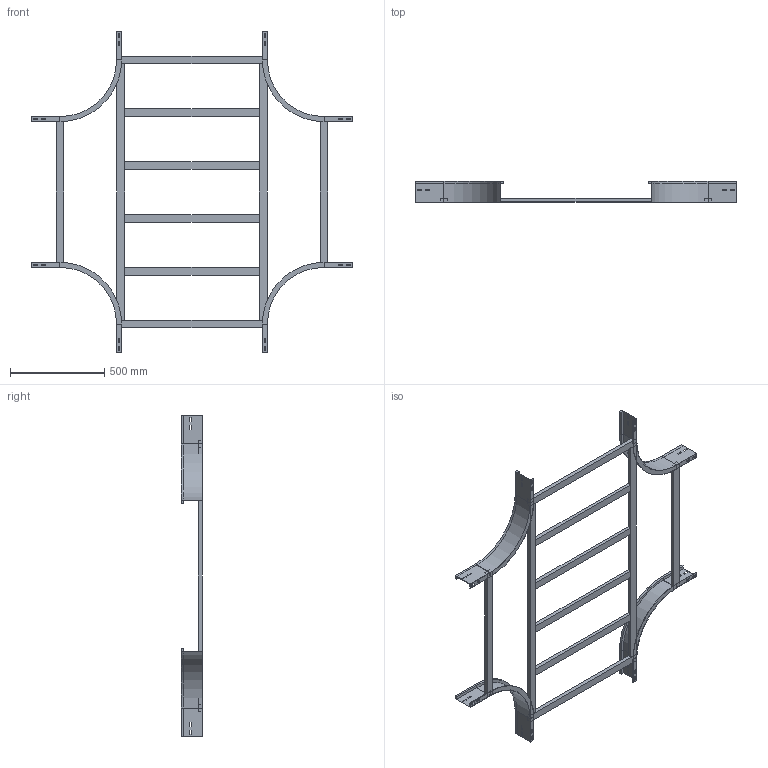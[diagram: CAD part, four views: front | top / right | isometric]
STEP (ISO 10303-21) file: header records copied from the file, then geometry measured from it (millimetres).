
FILE_DESCRIPTION (( 'STEP AP214' ), '1' );
FILE_NAME ('A2_17B3J800.step', '2025-02-21T15:56:58', ( '' ), ( '' ), 'SwSTEP 2.0', 'SolidWorks 2023', '' );
FILE_SCHEMA (( 'AUTOMOTIVE_DESIGN' ));
Length unit declared in the file: millimetre
Products named in the file (5): A2_TRAVERSINO_LONG._R300+800; A2_LONGH.INTERNO 90°_H112.5_R300; A2_17B3J800; TRAVERSINO_800; TRAVERSINO_INTERMEDIO_R300+800
Assembly tree (14 placements, depth 2):
  A2_17B3J800
    A2_LONGH.INTERNO 90°_H112.5_R300  x4
    TRAVERSINO_800  x4
    A2_TRAVERSINO_LONG._R300+800  x2
    TRAVERSINO_INTERMEDIO_R300+800  x4
Bounding box: 1700 x 112.5 x 1700 mm (x, y, z)
Volume: 8546881 mm3; surface area: 2043061.5 mm2
Topology: 14 solids, 14 shells, 292 faces, 728 edges, 464 vertices
Faces by surface type: plane 276, cylinder 16
Entity records: 2458 total; most frequent: CARTESIAN_POINT 401, DIRECTION 382, ORIENTED_EDGE 376, EDGE_CURVE 188, LINE 180, VECTOR 180, VERTEX_POINT 120, AXIS2_PLACEMENT_3D 101
